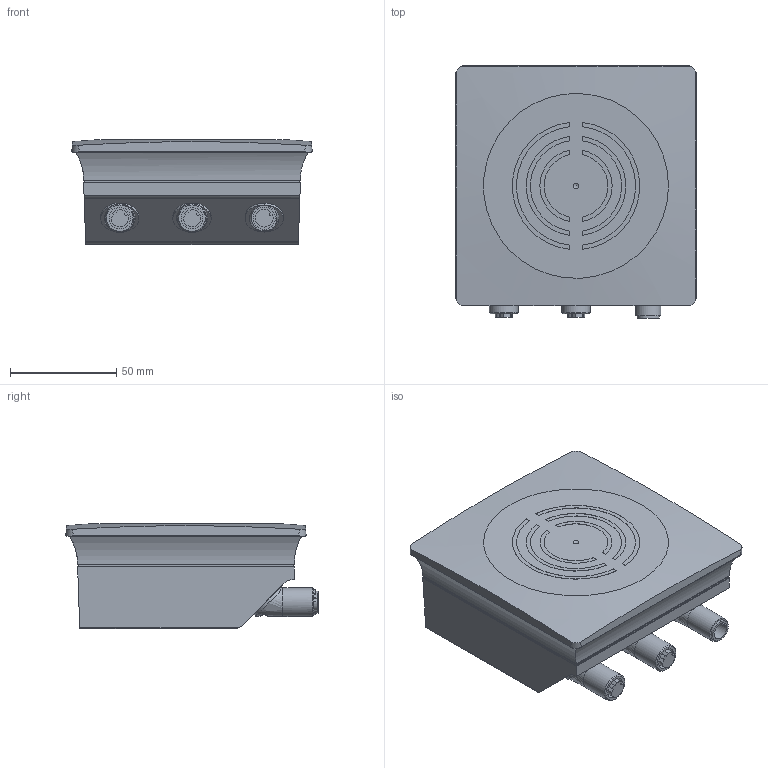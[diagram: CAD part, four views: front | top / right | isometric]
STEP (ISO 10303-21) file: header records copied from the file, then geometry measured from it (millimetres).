
FILE_DESCRIPTION( ( 'STEP AP203' ), '1' );
FILE_NAME( 'p:/temp/worker_10/temp/app_44_0201906070926348020977210e898ce_000000_00_00_000000/format_8/DTE804.stp', '2019-06-07T07:26:41', ( '' ), ( '' ), ' ', 'PARTsolutions', ' ' );
FILE_SCHEMA( ( 'CONFIG_CONTROL_DESIGN' ) );
Length unit declared in the file: millimetre
Products named in the file (1): _DTE804
Bounding box: 113 x 118.66 x 49.45 mm (x, y, z)
Volume: 497952.1 mm3; surface area: 46432.7 mm2
Topology: 1 solids, 1 shells, 152 faces, 398 edges, 274 vertices
Faces by surface type: plane 80, cylinder 53, torus 8, cone 7, bspline 3, sphere 1
Full cylindrical faces by diameter (mm): 10.106 x2, 10.4 x1, 12 x1, 13.5 x2, 18 x3
Entity records: 5504 total; most frequent: CARTESIAN_POINT 1918, ORIENTED_EDGE 718, DIRECTION 691, EDGE_CURVE 359, VERTEX_POINT 264, AXIS2_PLACEMENT_3D 262, EDGE_LOOP 206, FACE_OUTER_BOUND 172
